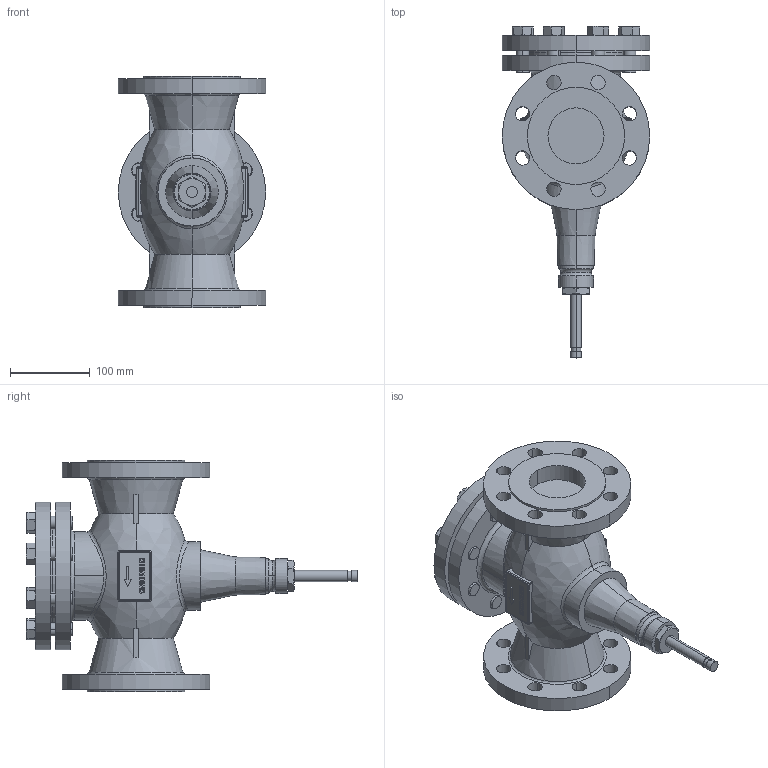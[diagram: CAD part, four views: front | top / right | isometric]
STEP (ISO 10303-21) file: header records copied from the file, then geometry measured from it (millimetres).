
FILE_DESCRIPTION((''),'2;1');
FILE_NAME('000194.stp','2006-09-29T17:19:32',(''),(''),'Mechanical Desktop 2006','Mechanical Desktop 2006',', , ');
FILE_SCHEMA(('AUTOMOTIVE_DESIGN { 1 2 10303 214 0 1 1 1 }'));
Length unit declared in the file: millimetre
Products named in the file (1): Product
Bounding box: 185 x 416.5 x 290 mm (x, y, z)
Volume: 5184761.3 mm3; surface area: 483441.5 mm2
Topology: 42 solids, 42 shells, 685 faces, 1749 edges, 1147 vertices
Faces by surface type: cylinder 296, plane 233, bspline 134, cone 10, sphere 8, torus 4
Entity records: 22737 total; most frequent: CARTESIAN_POINT 6421, ORIENTED_EDGE 3482, DIRECTION 3286, EDGE_CURVE 1741, AXIS2_PLACEMENT_3D 1215, VERTEX_POINT 1147, VECTOR 856, LINE 856
